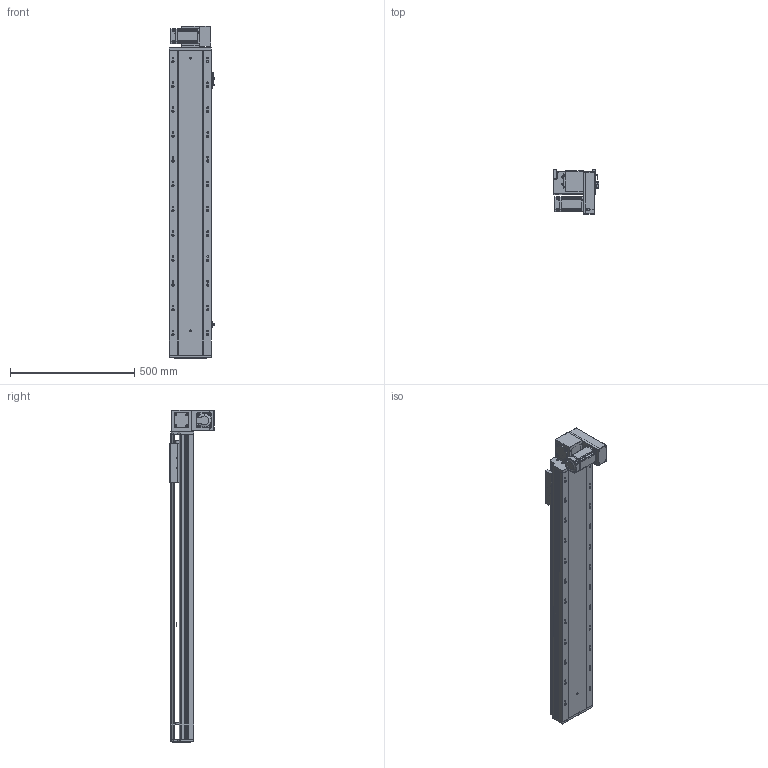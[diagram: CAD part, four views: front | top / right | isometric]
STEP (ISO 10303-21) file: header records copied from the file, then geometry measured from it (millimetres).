
FILE_DESCRIPTION (( 'STEP AP203' ), '1' );
FILE_NAME ('RY170-T-300-DR-P400W.SLDASM_950.step', '2021-03-01T08:23:29', ( '盈信电脑' ), ( '东莞市道滘镇水果街19号' ), 'SwSTEP 2.0', 'SolidWorks 2012', '' );
FILE_SCHEMA (( 'CONFIG_CONTROL_DESIGN' ));
Length unit declared in the file: millimetre
Products named in the file (19): 覜茼ん672; RY170-T-300肮祭謫倰第裔啣-DR_950; RY170肮祭湍臏賑輸; RY170綴裔啣; 15; RY170-T-300-DR-P400W.SLDASM_950; RY170-T肮祭謫裔啣; 滅袉蝶18-10; RY170-T-呴雄粣揤踡啣; RY170-T蹟翐M4; RY170-T肮祭湍揤踡輸2; RY120-T主同步轮轴承压盖; RY170-T肮祭湍揤踡輸1; RY170肮祭謫萇儂欶; RY170同步轮电机安装板(400W); RY170翋肮祭謫釱; RY170肮祭謫ヶ裔啣; RY170外置感应片(200共用）; RY170-T-300肮祭謫倰第菁釱-DR_950
Assembly tree (23 placements, depth 2):
  RY170-T-300-DR-P400W.SLDASM_950
    RY170-T-300肮祭謫倰第菁釱-DR_950
    RY170肮祭湍臏賑輸
    RY170-T-300肮祭謫倰第裔啣-DR_950
    RY170綴裔啣
    覜茼ん672  x3
    RY170外置感应片(200共用）
    RY170肮祭謫ヶ裔啣
    RY170翋肮祭謫釱
    RY170同步轮电机安装板(400W)
    RY170肮祭謫萇儂欶
    RY170-T肮祭湍揤踡輸1  x2
    RY170-T肮祭湍揤踡輸2  x2
    RY120-T主同步轮轴承压盖
    RY170-T肮祭謫裔啣
    RY170-T蹟翐M4
    滅袉蝶18-10  x2
    RY170-T-呴雄粣揤踡啣
    15
Bounding box: 183.7 x 178 x 1338 mm (x, y, z)
Volume: 6683641.6 mm3; surface area: 2275302.6 mm2
Topology: 23 solids, 23 shells, 2886 faces, 8138 edges, 5237 vertices
Faces by surface type: cylinder 1346, plane 1274, cone 236, bspline 30
Entity records: 88677 total; most frequent: CARTESIAN_POINT 20818, ORIENTED_EDGE 13984, DIRECTION 13466, EDGE_CURVE 6992, AXIS2_PLACEMENT_3D 4755, VERTEX_POINT 4593, LINE 3956, VECTOR 3956
